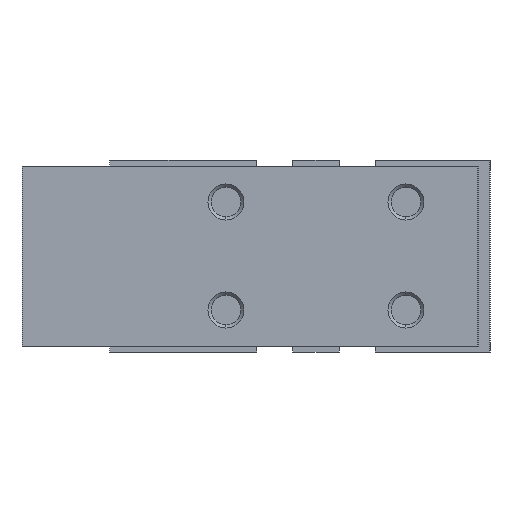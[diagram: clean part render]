
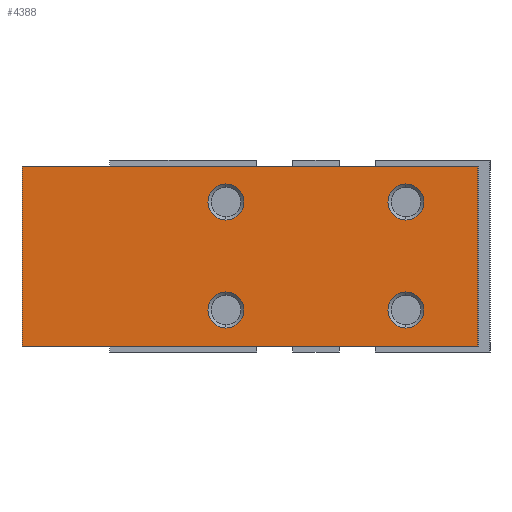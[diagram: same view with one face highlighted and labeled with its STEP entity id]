
A CAD part, left-side view. The second image highlights one B-rep face of the part: STEP entity #4388.
In plain terms, the highlighted planar face has unit normal (-1, 0, 0).
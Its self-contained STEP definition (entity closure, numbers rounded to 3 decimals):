
#3 = DIRECTION ( 'NONE',  ( -1., 0., 0. ) ) ;
#39 = VERTEX_POINT ( 'NONE', #3170 ) ;
#44 = CIRCLE ( 'NONE', #3726, 1.5 ) ;
#85 = DIRECTION ( 'NONE',  ( -1., 0., 0. ) ) ;
#130 = LINE ( 'NONE', #1040, #3826 ) ;
#140 = EDGE_CURVE ( 'NONE', #3201, #258, #4837, .T. ) ;
#169 = CARTESIAN_POINT ( 'NONE',  ( -8.5, -13.5, 7.5 ) ) ;
#229 = CIRCLE ( 'NONE', #2262, 1.5 ) ;
#258 = VERTEX_POINT ( 'NONE', #3358 ) ;
#293 = CIRCLE ( 'NONE', #4459, 1.5 ) ;
#347 = VERTEX_POINT ( 'NONE', #630 ) ;
#387 = DIRECTION ( 'NONE',  ( -1., 0., 0. ) ) ;
#391 = VERTEX_POINT ( 'NONE', #169 ) ;
#402 = EDGE_CURVE ( 'NONE', #4364, #39, #44, .T. ) ;
#405 = ORIENTED_EDGE ( 'NONE', *, *, #2004, .F. ) ;
#459 = DIRECTION ( 'NONE',  ( 1., 0., 0. ) ) ;
#465 = DIRECTION ( 'NONE',  ( -1., 0., 0. ) ) ;
#502 = VERTEX_POINT ( 'NONE', #3198 ) ;
#507 = EDGE_LOOP ( 'NONE', ( #4626, #405, #4197, #4045 ) ) ;
#517 = CARTESIAN_POINT ( 'NONE',  ( -8.5, 24.5, 7.5 ) ) ;
#522 = PLANE ( 'NONE',  #2792 ) ;
#525 = VECTOR ( 'NONE', #3363, 1000. ) ;
#570 = CIRCLE ( 'NONE', #4629, 1.5 ) ;
#593 = CARTESIAN_POINT ( 'NONE',  ( -8.5, 7.5, 4.5 ) ) ;
#630 = CARTESIAN_POINT ( 'NONE',  ( -8.5, -13.5, -7.5 ) ) ;
#719 = CARTESIAN_POINT ( 'NONE',  ( -8.5, -7.5, -4.5 ) ) ;
#783 = ORIENTED_EDGE ( 'NONE', *, *, #3312, .F. ) ;
#800 = VERTEX_POINT ( 'NONE', #3098 ) ;
#881 = FACE_BOUND ( 'NONE', #2652, .T. ) ;
#967 = AXIS2_PLACEMENT_3D ( 'NONE', #719, #1827, #4558 ) ;
#974 = LINE ( 'NONE', #3339, #4533 ) ;
#1025 = DIRECTION ( 'NONE',  ( 0., 0., 1. ) ) ;
#1040 = CARTESIAN_POINT ( 'NONE',  ( -8.5, -13.5, 7.5 ) ) ;
#1041 = EDGE_LOOP ( 'NONE', ( #3166, #5202 ) ) ;
#1137 = EDGE_CURVE ( 'NONE', #3392, #1510, #1926, .T. ) ;
#1148 = AXIS2_PLACEMENT_3D ( 'NONE', #2487, #4797, #5132 ) ;
#1151 = DIRECTION ( 'NONE',  ( 0., 0., 1. ) ) ;
#1161 = EDGE_CURVE ( 'NONE', #5665, #391, #974, .T. ) ;
#1200 = ORIENTED_EDGE ( 'NONE', *, *, #3910, .F. ) ;
#1489 = CARTESIAN_POINT ( 'NONE',  ( -8.5, 24.5, 7.5 ) ) ;
#1510 = VERTEX_POINT ( 'NONE', #2986 ) ;
#1619 = ORIENTED_EDGE ( 'NONE', *, *, #3754, .F. ) ;
#1620 = DIRECTION ( 'NONE',  ( 0., 0., 1. ) ) ;
#1653 = CARTESIAN_POINT ( 'NONE',  ( -8.5, -7.5, 4.5 ) ) ;
#1671 = FACE_BOUND ( 'NONE', #1041, .T. ) ;
#1814 = CARTESIAN_POINT ( 'NONE',  ( -8.5, 7.5, 3. ) ) ;
#1827 = DIRECTION ( 'NONE',  ( -1., 0., 0. ) ) ;
#1926 = CIRCLE ( 'NONE', #1148, 1.5 ) ;
#2004 = EDGE_CURVE ( 'NONE', #391, #347, #130, .T. ) ;
#2018 = DIRECTION ( 'NONE',  ( -1., 0., 0. ) ) ;
#2031 = CIRCLE ( 'NONE', #967, 1.5 ) ;
#2252 = CARTESIAN_POINT ( 'NONE',  ( -8.5, -7.5, -6. ) ) ;
#2262 = AXIS2_PLACEMENT_3D ( 'NONE', #5373, #2522, #3975 ) ;
#2273 = FACE_BOUND ( 'NONE', #3896, .T. ) ;
#2293 = DIRECTION ( 'NONE',  ( 0., 0., 1. ) ) ;
#2421 = CARTESIAN_POINT ( 'NONE',  ( -8.5, 24.5, -7.5 ) ) ;
#2487 = CARTESIAN_POINT ( 'NONE',  ( -8.5, 7.5, -4.5 ) ) ;
#2512 = AXIS2_PLACEMENT_3D ( 'NONE', #4609, #3, #1151 ) ;
#2522 = DIRECTION ( 'NONE',  ( -1., 0., 0. ) ) ;
#2652 = EDGE_LOOP ( 'NONE', ( #3894, #783 ) ) ;
#2757 = DIRECTION ( 'NONE',  ( 0., 1., 0. ) ) ;
#2792 = AXIS2_PLACEMENT_3D ( 'NONE', #1489, #459, #2757 ) ;
#2986 = CARTESIAN_POINT ( 'NONE',  ( -8.5, 7.5, -6. ) ) ;
#3098 = CARTESIAN_POINT ( 'NONE',  ( -8.5, -7.5, -3. ) ) ;
#3166 = ORIENTED_EDGE ( 'NONE', *, *, #4109, .F. ) ;
#3170 = CARTESIAN_POINT ( 'NONE',  ( -8.5, -7.5, 3. ) ) ;
#3190 = CIRCLE ( 'NONE', #2512, 1.5 ) ;
#3198 = CARTESIAN_POINT ( 'NONE',  ( -8.5, 24.5, -7.5 ) ) ;
#3201 = VERTEX_POINT ( 'NONE', #1814 ) ;
#3312 = EDGE_CURVE ( 'NONE', #1510, #3392, #3190, .T. ) ;
#3339 = CARTESIAN_POINT ( 'NONE',  ( -8.5, 24.5, 7.5 ) ) ;
#3358 = CARTESIAN_POINT ( 'NONE',  ( -8.5, 7.5, 6. ) ) ;
#3363 = DIRECTION ( 'NONE',  ( 0., -1., 0. ) ) ;
#3392 = VERTEX_POINT ( 'NONE', #5191 ) ;
#3709 = DIRECTION ( 'NONE',  ( 0., 0., -1. ) ) ;
#3726 = AXIS2_PLACEMENT_3D ( 'NONE', #1653, #2018, #1620 ) ;
#3740 = CARTESIAN_POINT ( 'NONE',  ( -8.5, 24.5, 7.5 ) ) ;
#3754 = EDGE_CURVE ( 'NONE', #3963, #800, #293, .T. ) ;
#3772 = LINE ( 'NONE', #3740, #4443 ) ;
#3794 = DIRECTION ( 'NONE',  ( 0., -1., 0. ) ) ;
#3826 = VECTOR ( 'NONE', #3888, 1000. ) ;
#3888 = DIRECTION ( 'NONE',  ( 0., 0., -1. ) ) ;
#3894 = ORIENTED_EDGE ( 'NONE', *, *, #1137, .F. ) ;
#3896 = EDGE_LOOP ( 'NONE', ( #4935, #4818 ) ) ;
#3910 = EDGE_CURVE ( 'NONE', #800, #3963, #2031, .T. ) ;
#3963 = VERTEX_POINT ( 'NONE', #2252 ) ;
#3975 = DIRECTION ( 'NONE',  ( 0., 0., 1. ) ) ;
#4024 = EDGE_CURVE ( 'NONE', #5665, #502, #3772, .T. ) ;
#4045 = ORIENTED_EDGE ( 'NONE', *, *, #4024, .T. ) ;
#4068 = CARTESIAN_POINT ( 'NONE',  ( -8.5, -7.5, 6. ) ) ;
#4109 = EDGE_CURVE ( 'NONE', #258, #3201, #570, .T. ) ;
#4125 = FACE_BOUND ( 'NONE', #5819, .T. ) ;
#4197 = ORIENTED_EDGE ( 'NONE', *, *, #1161, .F. ) ;
#4343 = AXIS2_PLACEMENT_3D ( 'NONE', #4535, #387, #2293 ) ;
#4357 = CARTESIAN_POINT ( 'NONE',  ( -8.5, -7.5, -4.5 ) ) ;
#4364 = VERTEX_POINT ( 'NONE', #4068 ) ;
#4388 = ADVANCED_FACE ( 'NONE', ( #5041, #881, #2273, #4125, #1671 ), #522, .F. ) ;
#4443 = VECTOR ( 'NONE', #3709, 1000. ) ;
#4459 = AXIS2_PLACEMENT_3D ( 'NONE', #4357, #85, #1025 ) ;
#4533 = VECTOR ( 'NONE', #3794, 1000. ) ;
#4535 = CARTESIAN_POINT ( 'NONE',  ( -8.5, 7.5, 4.5 ) ) ;
#4558 = DIRECTION ( 'NONE',  ( 0., 0., 1. ) ) ;
#4609 = CARTESIAN_POINT ( 'NONE',  ( -8.5, 7.5, -4.5 ) ) ;
#4626 = ORIENTED_EDGE ( 'NONE', *, *, #5627, .T. ) ;
#4629 = AXIS2_PLACEMENT_3D ( 'NONE', #593, #465, #5168 ) ;
#4695 = LINE ( 'NONE', #2421, #525 ) ;
#4797 = DIRECTION ( 'NONE',  ( -1., 0., 0. ) ) ;
#4818 = ORIENTED_EDGE ( 'NONE', *, *, #5374, .F. ) ;
#4837 = CIRCLE ( 'NONE', #4343, 1.5 ) ;
#4935 = ORIENTED_EDGE ( 'NONE', *, *, #402, .F. ) ;
#5041 = FACE_OUTER_BOUND ( 'NONE', #507, .T. ) ;
#5132 = DIRECTION ( 'NONE',  ( 0., 0., 1. ) ) ;
#5168 = DIRECTION ( 'NONE',  ( 0., 0., 1. ) ) ;
#5191 = CARTESIAN_POINT ( 'NONE',  ( -8.5, 7.5, -3. ) ) ;
#5202 = ORIENTED_EDGE ( 'NONE', *, *, #140, .F. ) ;
#5373 = CARTESIAN_POINT ( 'NONE',  ( -8.5, -7.5, 4.5 ) ) ;
#5374 = EDGE_CURVE ( 'NONE', #39, #4364, #229, .T. ) ;
#5627 = EDGE_CURVE ( 'NONE', #502, #347, #4695, .T. ) ;
#5665 = VERTEX_POINT ( 'NONE', #517 ) ;
#5819 = EDGE_LOOP ( 'NONE', ( #1200, #1619 ) ) ;
